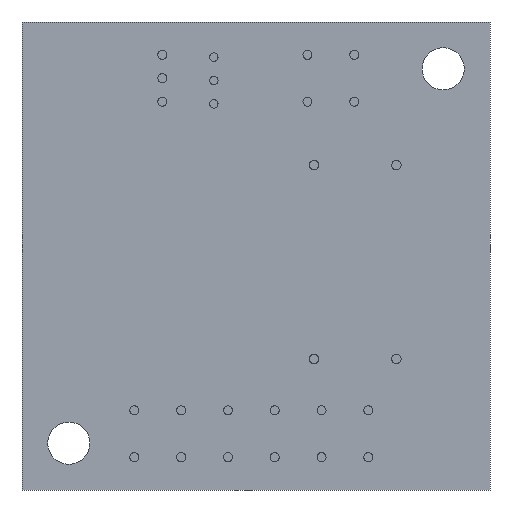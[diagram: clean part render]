
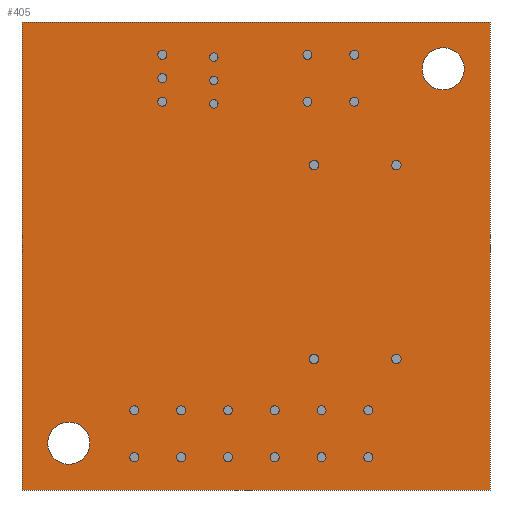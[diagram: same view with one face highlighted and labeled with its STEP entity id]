
A CAD part, front view. The second image highlights one B-rep face of the part: STEP entity #405.
In plain terms, the highlighted planar face has unit normal (0, -1, 0).
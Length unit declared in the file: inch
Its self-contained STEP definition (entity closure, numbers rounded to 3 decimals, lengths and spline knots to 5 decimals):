
#2=DIRECTION('',(1.,0.,0.));
#3=VECTOR('',#2,1.);
#4=CARTESIAN_POINT('',(0.,0.,0.));
#5=LINE('',#4,#3);
#6=DIRECTION('',(0.,0.,-1.));
#7=VECTOR('',#6,1.);
#8=CARTESIAN_POINT('',(1.,0.,0.));
#9=LINE('',#8,#7);
#10=DIRECTION('',(-1.,0.,0.));
#11=VECTOR('',#10,1.);
#12=CARTESIAN_POINT('',(1.,0.,-1.));
#13=LINE('',#12,#11);
#14=DIRECTION('',(0.,0.,1.));
#15=VECTOR('',#14,1.);
#16=CARTESIAN_POINT('',(0.,0.,-1.));
#17=LINE('',#16,#15);
#18=CARTESIAN_POINT('',(0.1,0.,-0.9));
#19=DIRECTION('',(0.,1.,0.));
#20=DIRECTION('',(1.,0.,0.));
#21=AXIS2_PLACEMENT_3D('',#18,#19,#20);
#23=CARTESIAN_POINT('',(0.1,0.,-0.9));
#24=DIRECTION('',(0.,1.,0.));
#25=DIRECTION('',(-1.,0.,0.));
#26=AXIS2_PLACEMENT_3D('',#23,#24,#25);
#28=CARTESIAN_POINT('',(0.9,0.,-0.1));
#29=DIRECTION('',(0.,1.,0.));
#30=DIRECTION('',(1.,0.,0.));
#31=AXIS2_PLACEMENT_3D('',#28,#29,#30);
#33=CARTESIAN_POINT('',(0.9,0.,-0.1));
#34=DIRECTION('',(0.,1.,0.));
#35=DIRECTION('',(-1.,0.,0.));
#36=AXIS2_PLACEMENT_3D('',#33,#34,#35);
#38=CARTESIAN_POINT('',(0.8,0.,-0.30585));
#39=DIRECTION('',(0.,1.,0.));
#40=DIRECTION('',(1.,0.,0.));
#41=AXIS2_PLACEMENT_3D('',#38,#39,#40);
#43=CARTESIAN_POINT('',(0.8,0.,-0.30585));
#44=DIRECTION('',(0.,1.,0.));
#45=DIRECTION('',(-1.,0.,0.));
#46=AXIS2_PLACEMENT_3D('',#43,#44,#45);
#48=CARTESIAN_POINT('',(0.624,0.,-0.30585));
#49=DIRECTION('',(0.,1.,0.));
#50=DIRECTION('',(1.,0.,0.));
#51=AXIS2_PLACEMENT_3D('',#48,#49,#50);
#53=CARTESIAN_POINT('',(0.624,0.,-0.30585));
#54=DIRECTION('',(0.,1.,0.));
#55=DIRECTION('',(-1.,0.,0.));
#56=AXIS2_PLACEMENT_3D('',#53,#54,#55);
#58=CARTESIAN_POINT('',(0.624,0.,-0.72));
#59=DIRECTION('',(0.,1.,0.));
#60=DIRECTION('',(1.,0.,0.));
#61=AXIS2_PLACEMENT_3D('',#58,#59,#60);
#63=CARTESIAN_POINT('',(0.624,0.,-0.72));
#64=DIRECTION('',(0.,1.,0.));
#65=DIRECTION('',(-1.,0.,0.));
#66=AXIS2_PLACEMENT_3D('',#63,#64,#65);
#68=CARTESIAN_POINT('',(0.8,0.,-0.72));
#69=DIRECTION('',(0.,1.,0.));
#70=DIRECTION('',(1.,0.,0.));
#71=AXIS2_PLACEMENT_3D('',#68,#69,#70);
#73=CARTESIAN_POINT('',(0.8,0.,-0.72));
#74=DIRECTION('',(0.,1.,0.));
#75=DIRECTION('',(-1.,0.,0.));
#76=AXIS2_PLACEMENT_3D('',#73,#74,#75);
#274=CARTESIAN_POINT('',(0.,0.,0.));
#275=CARTESIAN_POINT('',(1.,0.,0.));
#276=VERTEX_POINT('',#274);
#277=VERTEX_POINT('',#275);
#278=CARTESIAN_POINT('',(1.,0.,-1.));
#279=VERTEX_POINT('',#278);
#280=CARTESIAN_POINT('',(0.,0.,-1.));
#281=VERTEX_POINT('',#280);
#290=CARTESIAN_POINT('',(0.145,0.,-0.9));
#291=CARTESIAN_POINT('',(0.055,0.,-0.9));
#292=VERTEX_POINT('',#290);
#293=VERTEX_POINT('',#291);
#294=CARTESIAN_POINT('',(0.945,0.,-0.1));
#295=CARTESIAN_POINT('',(0.855,0.,-0.1));
#296=VERTEX_POINT('',#294);
#297=VERTEX_POINT('',#295);
#322=CARTESIAN_POINT('',(0.81,0.,-0.30585));
#323=CARTESIAN_POINT('',(0.79,0.,-0.30585));
#324=VERTEX_POINT('',#322);
#325=VERTEX_POINT('',#323);
#326=CARTESIAN_POINT('',(0.634,0.,-0.30585));
#327=CARTESIAN_POINT('',(0.614,0.,-0.30585));
#328=VERTEX_POINT('',#326);
#329=VERTEX_POINT('',#327);
#330=CARTESIAN_POINT('',(0.634,0.,-0.72));
#331=CARTESIAN_POINT('',(0.614,0.,-0.72));
#332=VERTEX_POINT('',#330);
#333=VERTEX_POINT('',#331);
#334=CARTESIAN_POINT('',(0.81,0.,-0.72));
#335=CARTESIAN_POINT('',(0.79,0.,-0.72));
#336=VERTEX_POINT('',#334);
#337=VERTEX_POINT('',#335);
#354=CARTESIAN_POINT('',(0.,0.,0.));
#355=DIRECTION('',(0.,1.,0.));
#356=DIRECTION('',(1.,0.,0.));
#357=AXIS2_PLACEMENT_3D('',#354,#355,#356);
#358=PLANE('',#357);
#360=ORIENTED_EDGE('',*,*,#359,.T.);
#362=ORIENTED_EDGE('',*,*,#361,.T.);
#364=ORIENTED_EDGE('',*,*,#363,.T.);
#366=ORIENTED_EDGE('',*,*,#365,.T.);
#367=EDGE_LOOP('',(#360,#362,#364,#366));
#368=FACE_OUTER_BOUND('',#367,.F.);
#370=ORIENTED_EDGE('',*,*,#369,.F.);
#372=ORIENTED_EDGE('',*,*,#371,.F.);
#373=EDGE_LOOP('',(#370,#372));
#374=FACE_BOUND('',#373,.F.);
#376=ORIENTED_EDGE('',*,*,#375,.F.);
#378=ORIENTED_EDGE('',*,*,#377,.F.);
#379=EDGE_LOOP('',(#376,#378));
#380=FACE_BOUND('',#379,.F.);
#382=ORIENTED_EDGE('',*,*,#381,.F.);
#384=ORIENTED_EDGE('',*,*,#383,.F.);
#385=EDGE_LOOP('',(#382,#384));
#386=FACE_BOUND('',#385,.F.);
#388=ORIENTED_EDGE('',*,*,#387,.F.);
#390=ORIENTED_EDGE('',*,*,#389,.F.);
#391=EDGE_LOOP('',(#388,#390));
#392=FACE_BOUND('',#391,.F.);
#394=ORIENTED_EDGE('',*,*,#393,.F.);
#396=ORIENTED_EDGE('',*,*,#395,.F.);
#397=EDGE_LOOP('',(#394,#396));
#398=FACE_BOUND('',#397,.F.);
#400=ORIENTED_EDGE('',*,*,#399,.F.);
#402=ORIENTED_EDGE('',*,*,#401,.F.);
#403=EDGE_LOOP('',(#400,#402));
#404=FACE_BOUND('',#403,.F.);
#405=ADVANCED_FACE('',(#368,#374,#380,#386,#392,#398,#404),#358,.F.);
#22=CIRCLE('',#21,0.045);
#27=CIRCLE('',#26,0.045);
#32=CIRCLE('',#31,0.045);
#37=CIRCLE('',#36,0.045);
#42=CIRCLE('',#41,0.01);
#47=CIRCLE('',#46,0.01);
#52=CIRCLE('',#51,0.01);
#57=CIRCLE('',#56,0.01);
#62=CIRCLE('',#61,0.01);
#67=CIRCLE('',#66,0.01);
#72=CIRCLE('',#71,0.01);
#77=CIRCLE('',#76,0.01);
#359=EDGE_CURVE('',#276,#277,#5,.T.);
#361=EDGE_CURVE('',#277,#279,#9,.T.);
#363=EDGE_CURVE('',#279,#281,#13,.T.);
#365=EDGE_CURVE('',#281,#276,#17,.T.);
#369=EDGE_CURVE('',#292,#293,#22,.T.);
#371=EDGE_CURVE('',#293,#292,#27,.T.);
#375=EDGE_CURVE('',#296,#297,#32,.T.);
#377=EDGE_CURVE('',#297,#296,#37,.T.);
#381=EDGE_CURVE('',#324,#325,#42,.T.);
#383=EDGE_CURVE('',#325,#324,#47,.T.);
#387=EDGE_CURVE('',#328,#329,#52,.T.);
#389=EDGE_CURVE('',#329,#328,#57,.T.);
#393=EDGE_CURVE('',#332,#333,#62,.T.);
#395=EDGE_CURVE('',#333,#332,#67,.T.);
#399=EDGE_CURVE('',#336,#337,#72,.T.);
#401=EDGE_CURVE('',#337,#336,#77,.T.);
